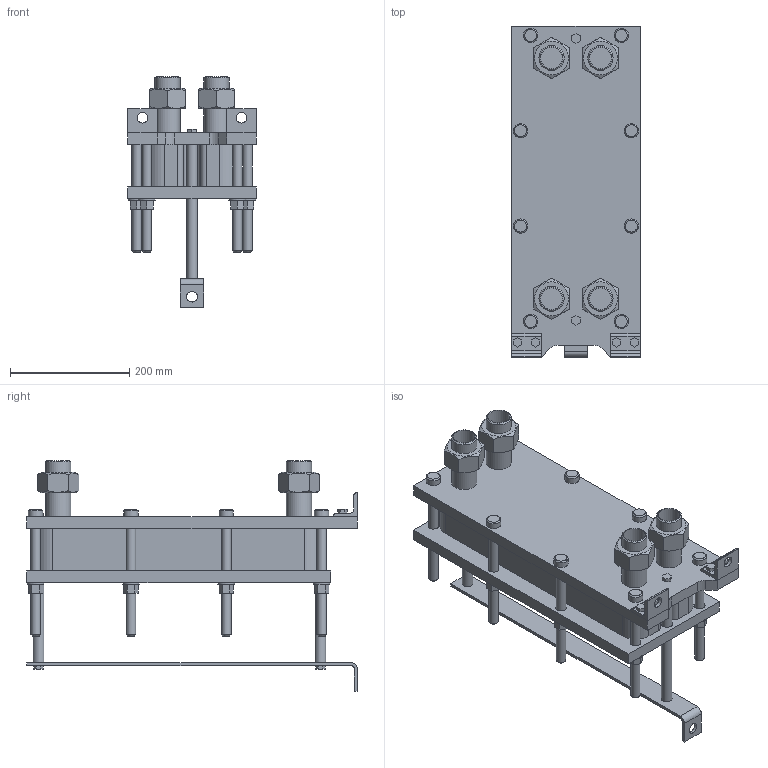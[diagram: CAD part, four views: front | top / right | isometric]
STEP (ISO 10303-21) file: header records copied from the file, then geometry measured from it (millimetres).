
FILE_DESCRIPTION(/* description */ (''),/* implementation_level */ '2;1');
FILE_NAME(/* name */ 'C:\Users\zhuro\Desktop\ENCO\TO\ЭН-004\ЭН-0,5-004-23-1.stp',/* time_stamp */ '2022-06-06T10:45:17+03:00',/* author */ ('zhuro'),/* organization */ (''),/* preprocessor_version */ 'ST-DEVELOPER v18.1',/* originating_system */ 'Autodesk Inventor 2022',/* authorisation */ '');
FILE_SCHEMA (('AUTOMOTIVE_DESIGN { 1 0 10303 214 3 1 1 }'));
Length unit declared in the file: millimetre
Products named in the file (1): ЭН-0,5-004-23-1
Bounding box: 216 x 555 x 387.4 mm (x, y, z)
Volume: 10831438.4 mm3; surface area: 1113495.7 mm2
Topology: 40 solids, 40 shells, 403 faces, 865 edges, 574 vertices
Faces by surface type: plane 272, cylinder 103, cone 28
Full cylindrical faces by diameter (mm): 10 x4, 16 x16, 18 x29, 20 x2, 24 x8, 28 x8, 36.3 x5, 42.3 x9
Entity records: 11137 total; most frequent: CARTESIAN_POINT 1939, DIRECTION 1879, ORIENTED_EDGE 1730, EDGE_CURVE 865, AXIS2_PLACEMENT_3D 658, VERTEX_POINT 574, LINE 563, VECTOR 563
